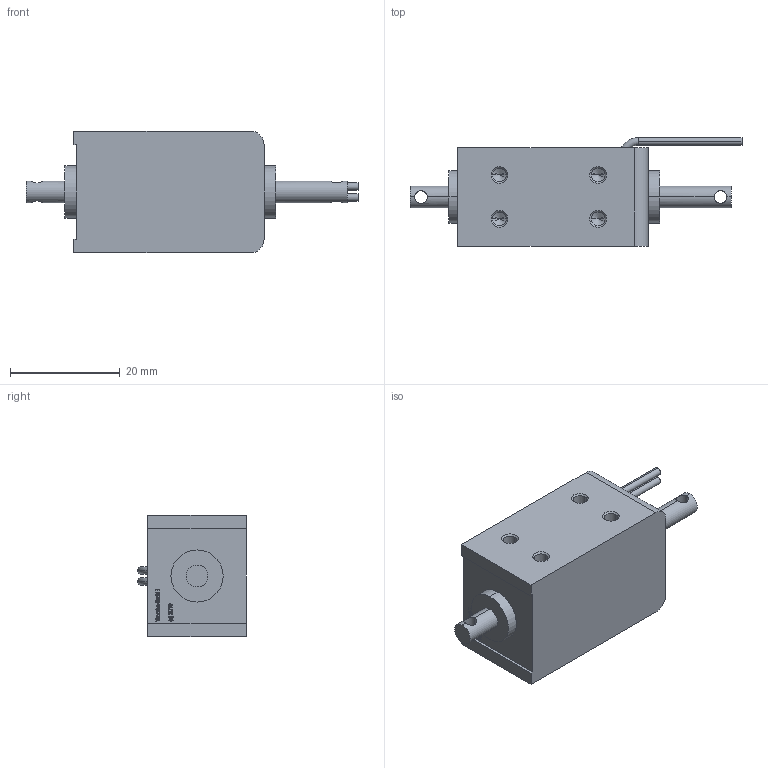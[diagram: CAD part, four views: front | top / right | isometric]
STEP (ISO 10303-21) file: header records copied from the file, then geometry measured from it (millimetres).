
FILE_DESCRIPTION (( 'STEP AP203' ), '1' );
FILE_NAME ('HMB-2218s-06 - dummy - RTR - V01.STEP', '2019-04-11T11:25:30', ( '' ), ( '' ), 'SwSTEP 2.0', 'SolidWorks 2016', '' );
FILE_SCHEMA (( 'CONFIG_CONTROL_DESIGN' ));
Length unit declared in the file: millimetre
Products named in the file (1): HMB-2218s-06 - dummy - RTR - V01
Bounding box: 60.52 x 19.84 x 22.2 mm (x, y, z)
Volume: 14114.4 mm3; surface area: 4335.6 mm2
Topology: 1 solids, 1 shells, 315 faces, 824 edges, 528 vertices
Faces by surface type: plane 129, bspline 116, cylinder 34, cone 32, torus 4
Entity records: 16075 total; most frequent: CARTESIAN_POINT 9088, ORIENTED_EDGE 1616, DIRECTION 1048, EDGE_CURVE 808, VERTEX_POINT 528, VECTOR 480, LINE 480, EDGE_LOOP 352
